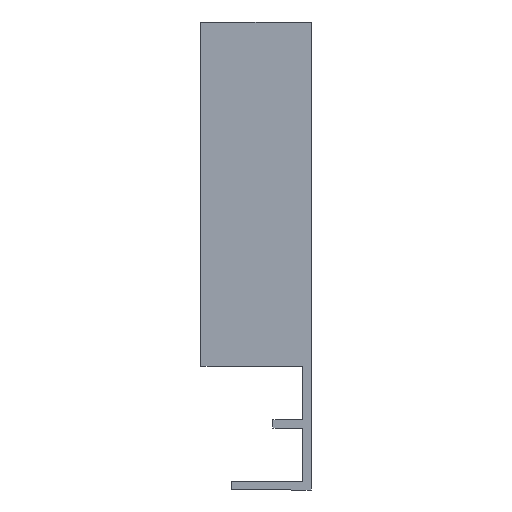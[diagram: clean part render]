
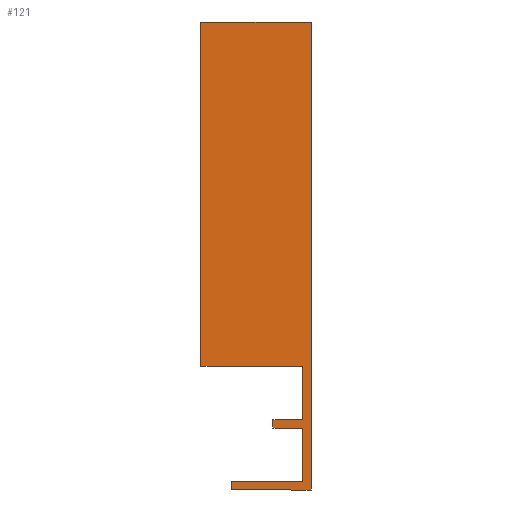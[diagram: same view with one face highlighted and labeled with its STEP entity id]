
A CAD part, left-side view. The second image highlights one B-rep face of the part: STEP entity #121.
In plain terms, the highlighted planar face has unit normal (-1, 0, 0).
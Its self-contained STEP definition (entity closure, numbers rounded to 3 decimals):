
#1 = VERTEX_POINT ( 'NONE', #10 ) ;
#3 = VERTEX_POINT ( 'NONE', #5 ) ;
#5 = CARTESIAN_POINT ( 'NONE',  ( -261.5, 0., -8.95 ) ) ;
#9 = VERTEX_POINT ( 'NONE', #98 ) ;
#10 = CARTESIAN_POINT ( 'NONE',  ( -261.5, -4.3, -7.75 ) ) ;
#14 = VERTEX_POINT ( 'NONE', #97 ) ;
#17 = VERTEX_POINT ( 'NONE', #94 ) ;
#20 = VERTEX_POINT ( 'NONE', #91 ) ;
#22 = VERTEX_POINT ( 'NONE', #89 ) ;
#23 = VERTEX_POINT ( 'NONE', #88 ) ;
#36 = DIRECTION ( 'NONE',  ( 0., -1., 0. ) ) ;
#37 = DIRECTION ( 'NONE',  ( -1., 0., 0. ) ) ;
#43 = CARTESIAN_POINT ( 'NONE',  ( -261.5, 6., -16.7 ) ) ;
#46 = PLANE ( 'NONE',  #171 ) ;
#78 = CARTESIAN_POINT ( 'NONE',  ( -261.5, 0., -7.75 ) ) ;
#80 = CARTESIAN_POINT ( 'NONE',  ( -261.5, -4.3, -8.95 ) ) ;
#83 = CARTESIAN_POINT ( 'NONE',  ( -261.5, -5.5, 49.7 ) ) ;
#84 = CARTESIAN_POINT ( 'NONE',  ( -261.5, 10.4, 0. ) ) ;
#88 = CARTESIAN_POINT ( 'NONE',  ( -261.5, 10.4, 49.7 ) ) ;
#89 = CARTESIAN_POINT ( 'NONE',  ( -261.5, -4.3, 0. ) ) ;
#91 = CARTESIAN_POINT ( 'NONE',  ( -261.5, -4.3, -16.7 ) ) ;
#94 = CARTESIAN_POINT ( 'NONE',  ( -261.5, 6., -17.9 ) ) ;
#97 = CARTESIAN_POINT ( 'NONE',  ( -261.5, -5.5, -17.9 ) ) ;
#98 = CARTESIAN_POINT ( 'NONE',  ( -261.5, 6., -16.7 ) ) ;
#102 = VERTEX_POINT ( 'NONE', #84 ) ;
#103 = VERTEX_POINT ( 'NONE', #83 ) ;
#106 = VERTEX_POINT ( 'NONE', #80 ) ;
#108 = VERTEX_POINT ( 'NONE', #78 ) ;
#121 = ADVANCED_FACE ( 'NONE', ( #360 ), #46, .T. ) ;
#137 = EDGE_CURVE ( 'NONE', #103, #23, #355, .T. ) ;
#140 = EDGE_CURVE ( 'NONE', #20, #9, #346, .T. ) ;
#141 = EDGE_CURVE ( 'NONE', #1, #108, #340, .T. ) ;
#142 = EDGE_CURVE ( 'NONE', #9, #17, #338, .T. ) ;
#143 = EDGE_CURVE ( 'NONE', #102, #22, #467, .T. ) ;
#144 = EDGE_CURVE ( 'NONE', #22, #1, #469, .T. ) ;
#146 = EDGE_CURVE ( 'NONE', #23, #102, #345, .T. ) ;
#150 = EDGE_CURVE ( 'NONE', #3, #106, #336, .T. ) ;
#152 = EDGE_CURVE ( 'NONE', #14, #103, #484, .T. ) ;
#153 = EDGE_CURVE ( 'NONE', #106, #20, #492, .T. ) ;
#161 = EDGE_CURVE ( 'NONE', #108, #3, #499, .T. ) ;
#171 = AXIS2_PLACEMENT_3D ( 'NONE', #43, #37, #36 ) ;
#191 = EDGE_CURVE ( 'NONE', #17, #14, #533, .T. ) ;
#218 = CARTESIAN_POINT ( 'NONE',  ( -261.5, -5.5, 49.7 ) ) ;
#221 = CARTESIAN_POINT ( 'NONE',  ( -261.5, -4.3, -16.7 ) ) ;
#228 = DIRECTION ( 'NONE',  ( 0., 1., 0. ) ) ;
#231 = CARTESIAN_POINT ( 'NONE',  ( -261.5, 10.4, 49.7 ) ) ;
#232 = DIRECTION ( 'NONE',  ( 0., 1., 0. ) ) ;
#233 = CARTESIAN_POINT ( 'NONE',  ( -261.5, -4.3, -7.75 ) ) ;
#234 = DIRECTION ( 'NONE',  ( 0., 1., 0. ) ) ;
#235 = CARTESIAN_POINT ( 'NONE',  ( -261.5, 6., -16.7 ) ) ;
#236 = DIRECTION ( 'NONE',  ( 0., 0., -1. ) ) ;
#237 = CARTESIAN_POINT ( 'NONE',  ( -261.5, 10.4, 0. ) ) ;
#238 = DIRECTION ( 'NONE',  ( 0., -1., 0. ) ) ;
#239 = CARTESIAN_POINT ( 'NONE',  ( -261.5, -4.3, 0. ) ) ;
#240 = DIRECTION ( 'NONE',  ( 0., 0., -1. ) ) ;
#244 = DIRECTION ( 'NONE',  ( 0., 0., -1. ) ) ;
#249 = CARTESIAN_POINT ( 'NONE',  ( -261.5, 0., -8.95 ) ) ;
#251 = CARTESIAN_POINT ( 'NONE',  ( -261.5, -5.5, -17.9 ) ) ;
#252 = DIRECTION ( 'NONE',  ( 0., -1., 0. ) ) ;
#256 = DIRECTION ( 'NONE',  ( 0., 0., 1. ) ) ;
#257 = CARTESIAN_POINT ( 'NONE',  ( -261.5, -4.3, -8.95 ) ) ;
#258 = DIRECTION ( 'NONE',  ( 0., 0., -1. ) ) ;
#273 = CARTESIAN_POINT ( 'NONE',  ( -261.5, 0., -7.75 ) ) ;
#276 = DIRECTION ( 'NONE',  ( 0., 0., -1. ) ) ;
#304 = CARTESIAN_POINT ( 'NONE',  ( -261.5, 6., -17.9 ) ) ;
#305 = DIRECTION ( 'NONE',  ( 0., -1., 0. ) ) ;
#335 = VECTOR ( 'NONE', #244, 1000. ) ;
#336 = LINE ( 'NONE', #249, #486 ) ;
#337 = VECTOR ( 'NONE', #236, 1000. ) ;
#338 = LINE ( 'NONE', #235, #337 ) ;
#339 = VECTOR ( 'NONE', #234, 1000. ) ;
#340 = LINE ( 'NONE', #233, #339 ) ;
#342 = VECTOR ( 'NONE', #232, 1000. ) ;
#345 = LINE ( 'NONE', #231, #335 ) ;
#346 = LINE ( 'NONE', #221, #342 ) ;
#350 = VECTOR ( 'NONE', #228, 1000. ) ;
#355 = LINE ( 'NONE', #218, #350 ) ;
#360 = FACE_OUTER_BOUND ( 'NONE', #444, .T. ) ;
#395 = ORIENTED_EDGE ( 'NONE', *, *, #153, .T. ) ;
#396 = ORIENTED_EDGE ( 'NONE', *, *, #150, .T. ) ;
#397 = ORIENTED_EDGE ( 'NONE', *, *, #161, .T. ) ;
#398 = ORIENTED_EDGE ( 'NONE', *, *, #141, .T. ) ;
#399 = ORIENTED_EDGE ( 'NONE', *, *, #144, .T. ) ;
#400 = ORIENTED_EDGE ( 'NONE', *, *, #143, .T. ) ;
#401 = ORIENTED_EDGE ( 'NONE', *, *, #146, .T. ) ;
#402 = ORIENTED_EDGE ( 'NONE', *, *, #137, .T. ) ;
#403 = ORIENTED_EDGE ( 'NONE', *, *, #152, .T. ) ;
#404 = ORIENTED_EDGE ( 'NONE', *, *, #191, .T. ) ;
#405 = ORIENTED_EDGE ( 'NONE', *, *, #142, .T. ) ;
#406 = ORIENTED_EDGE ( 'NONE', *, *, #140, .T. ) ;
#444 = EDGE_LOOP ( 'NONE', ( #406, #405, #404, #403, #402, #401, #400, #399, #398, #397, #396, #395 ) ) ;
#467 = LINE ( 'NONE', #237, #468 ) ;
#468 = VECTOR ( 'NONE', #238, 1000. ) ;
#469 = LINE ( 'NONE', #239, #470 ) ;
#470 = VECTOR ( 'NONE', #240, 1000. ) ;
#484 = LINE ( 'NONE', #251, #490 ) ;
#486 = VECTOR ( 'NONE', #252, 1000. ) ;
#490 = VECTOR ( 'NONE', #256, 1000. ) ;
#492 = LINE ( 'NONE', #257, #493 ) ;
#493 = VECTOR ( 'NONE', #258, 1000. ) ;
#499 = LINE ( 'NONE', #273, #507 ) ;
#507 = VECTOR ( 'NONE', #276, 1000. ) ;
#533 = LINE ( 'NONE', #304, #534 ) ;
#534 = VECTOR ( 'NONE', #305, 1000. ) ;
